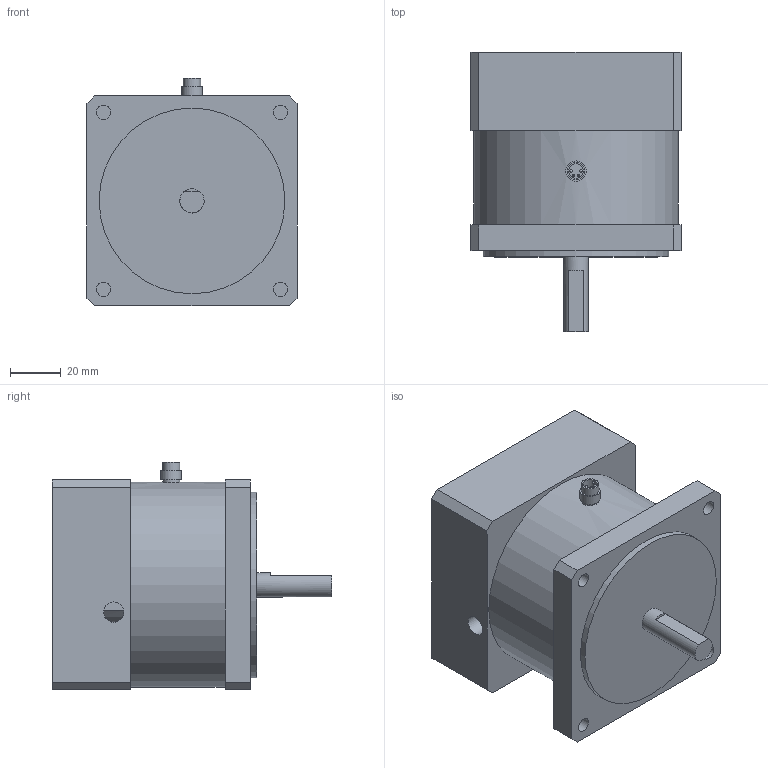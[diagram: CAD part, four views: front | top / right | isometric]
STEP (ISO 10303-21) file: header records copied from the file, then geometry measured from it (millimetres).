
FILE_DESCRIPTION( ( 'Unknown' ), '1' );
FILE_NAME( 'K:/JVL/MAB34x/MAB34x-92.stp', 'Unknown', ( 'Unknown' ), ( 'Unknown' ), 'PSStep 11.0', 'Unknown', ' ' );
FILE_SCHEMA( ( 'AUTOMOTIVE_DESIGN { 1 0 10303 214 1 1 1 1 }' ) );
Length unit declared in the file: millimetre
Products named in the file (1): 1
Bounding box: 82.6 x 110 x 89.6 mm (x, y, z)
Volume: 437808 mm3; surface area: 49490.1 mm2
Topology: 1 solids, 1 shells, 84 faces, 191 edges, 125 vertices
Faces by surface type: plane 50, cylinder 30, sphere 4
Full cylindrical faces by diameter (mm): 1 x4, 4.134 x4, 5.6 x4, 5.62 x1, 6.8 x2, 8 x2, 9.53 x1, 33 x1, 40.9 x1, 73 x2, 80.6 x1
Entity records: 3027 total; most frequent: CARTESIAN_POINT 521, DIRECTION 387, ORIENTED_EDGE 314, EDGE_CURVE 157, AXIS2_PLACEMENT_3D 148, EDGE_LOOP 137, VERTEX_POINT 118, FACE_OUTER_BOUND 107
